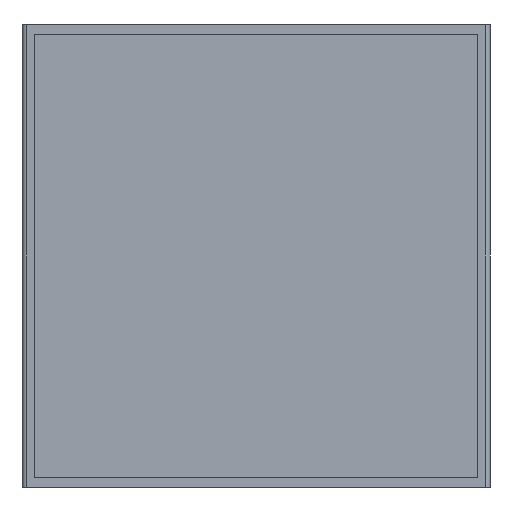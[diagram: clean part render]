
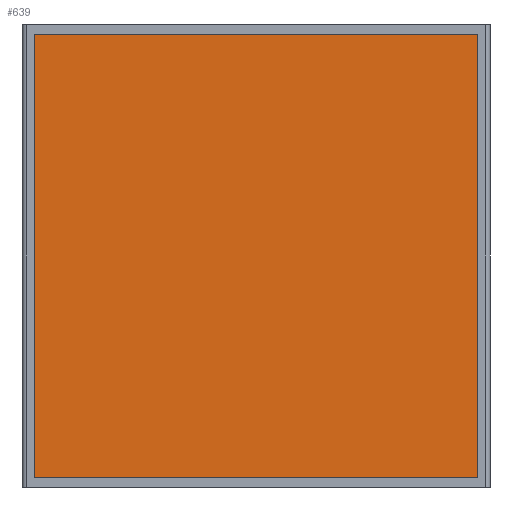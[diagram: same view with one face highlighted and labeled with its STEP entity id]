
A CAD part, front view. The second image highlights one B-rep face of the part: STEP entity #639.
In plain terms, the highlighted planar face has unit normal (0, -1, 0).
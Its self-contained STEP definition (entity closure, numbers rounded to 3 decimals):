
#162 = VECTOR ( 'NONE', #944, 1000. ) ;
#239 = ORIENTED_EDGE ( 'NONE', *, *, #3395, .F. ) ;
#393 = VERTEX_POINT ( 'NONE', #2881 ) ;
#639 = ADVANCED_FACE ( 'NONE', ( #1435 ), #4178, .F. ) ;
#776 = EDGE_LOOP ( 'NONE', ( #3295, #3882, #1532, #239 ) ) ;
#944 = DIRECTION ( 'NONE',  ( 0., 0., 1. ) ) ;
#1349 = CARTESIAN_POINT ( 'NONE',  ( -12.7, -0.127, 12.7 ) ) ;
#1435 = FACE_OUTER_BOUND ( 'NONE', #776, .T. ) ;
#1532 = ORIENTED_EDGE ( 'NONE', *, *, #3959, .F. ) ;
#1638 = LINE ( 'NONE', #3901, #1963 ) ;
#1653 = VERTEX_POINT ( 'NONE', #2741 ) ;
#1714 = CARTESIAN_POINT ( 'NONE',  ( 12.7, -0.127, 12.7 ) ) ;
#1825 = CARTESIAN_POINT ( 'NONE',  ( -12.7, -0.127, -12.7 ) ) ;
#1963 = VECTOR ( 'NONE', #3435, 1000. ) ;
#2113 = CARTESIAN_POINT ( 'NONE',  ( -12.7, -0.127, 12.7 ) ) ;
#2280 = EDGE_CURVE ( 'NONE', #1653, #393, #3993, .T. ) ;
#2549 = DIRECTION ( 'NONE',  ( 0., 1., 0. ) ) ;
#2741 = CARTESIAN_POINT ( 'NONE',  ( -12.7, -0.127, -12.7 ) ) ;
#2748 = VERTEX_POINT ( 'NONE', #1714 ) ;
#2881 = CARTESIAN_POINT ( 'NONE',  ( -12.7, -0.127, 12.7 ) ) ;
#2957 = VECTOR ( 'NONE', #4867, 1000. ) ;
#3295 = ORIENTED_EDGE ( 'NONE', *, *, #2280, .F. ) ;
#3395 = EDGE_CURVE ( 'NONE', #393, #2748, #3584, .T. ) ;
#3435 = DIRECTION ( 'NONE',  ( -1., 0., 0. ) ) ;
#3532 = LINE ( 'NONE', #4910, #5053 ) ;
#3584 = LINE ( 'NONE', #1349, #2957 ) ;
#3882 = ORIENTED_EDGE ( 'NONE', *, *, #3910, .F. ) ;
#3901 = CARTESIAN_POINT ( 'NONE',  ( -12.7, -0.127, -12.7 ) ) ;
#3910 = EDGE_CURVE ( 'NONE', #5291, #1653, #1638, .T. ) ;
#3959 = EDGE_CURVE ( 'NONE', #2748, #5291, #3532, .T. ) ;
#3993 = LINE ( 'NONE', #1825, #162 ) ;
#3996 = DIRECTION ( 'NONE',  ( 0., 0., -1. ) ) ;
#4178 = PLANE ( 'NONE',  #5599 ) ;
#4458 = CARTESIAN_POINT ( 'NONE',  ( 12.7, -0.127, -12.7 ) ) ;
#4867 = DIRECTION ( 'NONE',  ( 1., 0., 0. ) ) ;
#4910 = CARTESIAN_POINT ( 'NONE',  ( 12.7, -0.127, -12.7 ) ) ;
#5053 = VECTOR ( 'NONE', #3996, 1000. ) ;
#5291 = VERTEX_POINT ( 'NONE', #4458 ) ;
#5599 = AXIS2_PLACEMENT_3D ( 'NONE', #2113, #2549, #5645 ) ;
#5645 = DIRECTION ( 'NONE',  ( 0., 0., 1. ) ) ;
